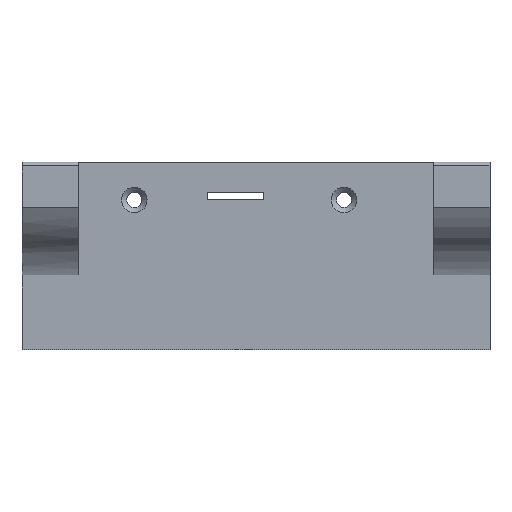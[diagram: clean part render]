
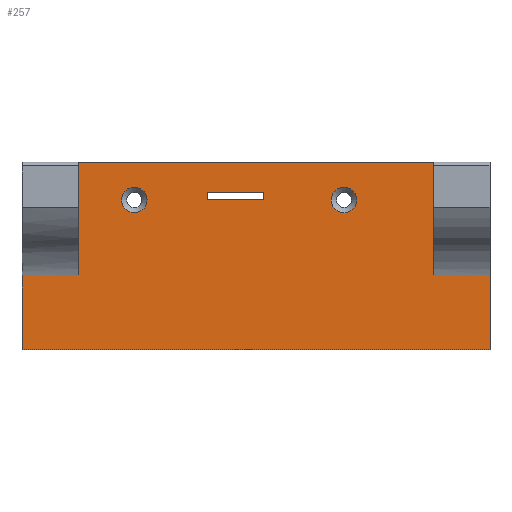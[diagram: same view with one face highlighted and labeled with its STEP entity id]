
A CAD part, top view. The second image highlights one B-rep face of the part: STEP entity #257.
In plain terms, the highlighted planar face has unit normal (0, 0, 1).
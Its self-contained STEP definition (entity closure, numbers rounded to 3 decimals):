
#74=CARTESIAN_POINT('',(15.,50.,5.));
#75=VERTEX_POINT('',#74);
#82=CARTESIAN_POINT('',(110.,50.,5.));
#83=VERTEX_POINT('',#82);
#84=CARTESIAN_POINT('',(15.,50.,5.));
#85=DIRECTION('',(1.,0.,-0.));
#86=VECTOR('',#85,95.);
#87=LINE('',#84,#86);
#88=EDGE_CURVE('',#75,#83,#87,.T.);
#139=CARTESIAN_POINT('',(0.,0.,5.));
#140=DIRECTION('',(0.,0.,1.));
#141=DIRECTION('',(1.,0.,0.));
#142=AXIS2_PLACEMENT_3D('',#139,#140,#141);
#143=PLANE('',#142);
#144=CARTESIAN_POINT('',(49.5,40.,5.));
#145=VERTEX_POINT('',#144);
#146=CARTESIAN_POINT('',(64.5,40.,5.));
#147=VERTEX_POINT('',#146);
#148=CARTESIAN_POINT('',(49.5,40.,5.));
#149=DIRECTION('',(1.,0.,-0.));
#150=VECTOR('',#149,15.);
#151=LINE('',#148,#150);
#152=EDGE_CURVE('',#145,#147,#151,.T.);
#153=ORIENTED_EDGE('',*,*,#152,.F.);
#154=CARTESIAN_POINT('',(49.5,42.,5.));
#155=VERTEX_POINT('',#154);
#156=CARTESIAN_POINT('',(49.5,42.,5.));
#157=DIRECTION('',(0.,-1.,0.));
#158=VECTOR('',#157,2.);
#159=LINE('',#156,#158);
#160=EDGE_CURVE('',#155,#145,#159,.T.);
#161=ORIENTED_EDGE('',*,*,#160,.F.);
#162=CARTESIAN_POINT('',(64.5,42.,5.));
#163=VERTEX_POINT('',#162);
#164=CARTESIAN_POINT('',(64.5,42.,5.));
#165=DIRECTION('',(-1.,0.,0.));
#166=VECTOR('',#165,15.);
#167=LINE('',#164,#166);
#168=EDGE_CURVE('',#163,#155,#167,.T.);
#169=ORIENTED_EDGE('',*,*,#168,.F.);
#170=CARTESIAN_POINT('',(64.5,40.,5.));
#171=DIRECTION('',(0.,1.,0.));
#172=VECTOR('',#171,2.);
#173=LINE('',#170,#172);
#174=EDGE_CURVE('',#147,#163,#173,.T.);
#175=ORIENTED_EDGE('',*,*,#174,.F.);
#176=EDGE_LOOP('',(#153,#161,#169,#175));
#177=FACE_BOUND('',#176,.T.);
#178=CARTESIAN_POINT('',(89.4,40.,5.));
#179=VERTEX_POINT('',#178);
#180=CARTESIAN_POINT('',(86.,40.,5.));
#181=DIRECTION('',(-0.,-0.,-1.));
#182=DIRECTION('',(1.,0.,-0.));
#183=AXIS2_PLACEMENT_3D('',#180,#181,#182);
#184=CIRCLE('',#183,3.4);
#185=EDGE_CURVE('',#179,#179,#184,.T.);
#186=ORIENTED_EDGE('',*,*,#185,.T.);
#187=EDGE_LOOP('',(#186));
#188=FACE_BOUND('',#187,.T.);
#189=CARTESIAN_POINT('',(33.4,40.,5.));
#190=VERTEX_POINT('',#189);
#191=CARTESIAN_POINT('',(30.,40.,5.));
#192=DIRECTION('',(-0.,-0.,-1.));
#193=DIRECTION('',(1.,0.,-0.));
#194=AXIS2_PLACEMENT_3D('',#191,#192,#193);
#195=CIRCLE('',#194,3.4);
#196=EDGE_CURVE('',#190,#190,#195,.T.);
#197=ORIENTED_EDGE('',*,*,#196,.T.);
#198=EDGE_LOOP('',(#197));
#199=FACE_BOUND('',#198,.T.);
#200=CARTESIAN_POINT('',(15.,20.,5.));
#201=VERTEX_POINT('',#200);
#202=CARTESIAN_POINT('',(15.,50.,5.));
#203=DIRECTION('',(0.,-1.,0.));
#204=VECTOR('',#203,30.);
#205=LINE('',#202,#204);
#206=EDGE_CURVE('',#75,#201,#205,.T.);
#207=ORIENTED_EDGE('',*,*,#206,.T.);
#208=CARTESIAN_POINT('',(0.,20.,5.));
#209=VERTEX_POINT('',#208);
#210=CARTESIAN_POINT('',(15.,20.,5.));
#211=DIRECTION('',(-1.,0.,0.));
#212=VECTOR('',#211,15.);
#213=LINE('',#210,#212);
#214=EDGE_CURVE('',#201,#209,#213,.T.);
#215=ORIENTED_EDGE('',*,*,#214,.T.);
#216=CARTESIAN_POINT('',(0.,0.,5.));
#217=VERTEX_POINT('',#216);
#218=CARTESIAN_POINT('',(0.,0.,5.));
#219=DIRECTION('',(0.,1.,0.));
#220=VECTOR('',#219,20.);
#221=LINE('',#218,#220);
#222=EDGE_CURVE('',#217,#209,#221,.T.);
#223=ORIENTED_EDGE('',*,*,#222,.F.);
#224=CARTESIAN_POINT('',(125.,0.,5.));
#225=VERTEX_POINT('',#224);
#226=CARTESIAN_POINT('',(125.,0.,5.));
#227=DIRECTION('',(-1.,0.,0.));
#228=VECTOR('',#227,125.);
#229=LINE('',#226,#228);
#230=EDGE_CURVE('',#225,#217,#229,.T.);
#231=ORIENTED_EDGE('',*,*,#230,.F.);
#232=CARTESIAN_POINT('',(125.,20.,5.));
#233=VERTEX_POINT('',#232);
#234=CARTESIAN_POINT('',(125.,20.,5.));
#235=DIRECTION('',(0.,-1.,0.));
#236=VECTOR('',#235,20.);
#237=LINE('',#234,#236);
#238=EDGE_CURVE('',#233,#225,#237,.T.);
#239=ORIENTED_EDGE('',*,*,#238,.F.);
#240=CARTESIAN_POINT('',(110.,20.,5.));
#241=VERTEX_POINT('',#240);
#242=CARTESIAN_POINT('',(110.,20.,5.));
#243=DIRECTION('',(1.,0.,0.));
#244=VECTOR('',#243,15.);
#245=LINE('',#242,#244);
#246=EDGE_CURVE('',#241,#233,#245,.T.);
#247=ORIENTED_EDGE('',*,*,#246,.F.);
#248=CARTESIAN_POINT('',(110.,50.,5.));
#249=DIRECTION('',(0.,-1.,0.));
#250=VECTOR('',#249,30.);
#251=LINE('',#248,#250);
#252=EDGE_CURVE('',#83,#241,#251,.T.);
#253=ORIENTED_EDGE('',*,*,#252,.F.);
#254=ORIENTED_EDGE('',*,*,#88,.F.);
#255=EDGE_LOOP('',(#207,#215,#223,#231,#239,#247,#253,#254));
#256=FACE_BOUND('',#255,.T.);
#257=ADVANCED_FACE('',(#177,#188,#199,#256),#143,.T.);
